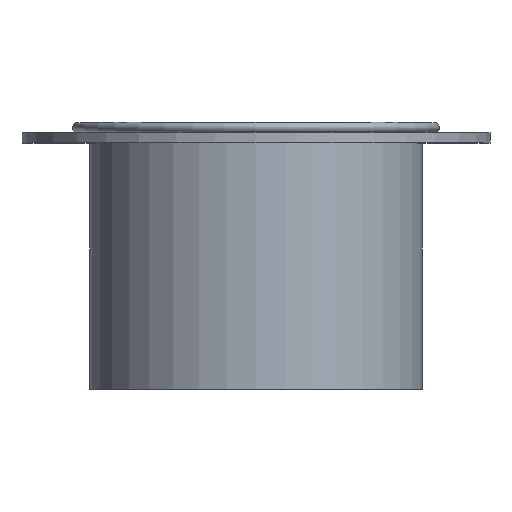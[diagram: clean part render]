
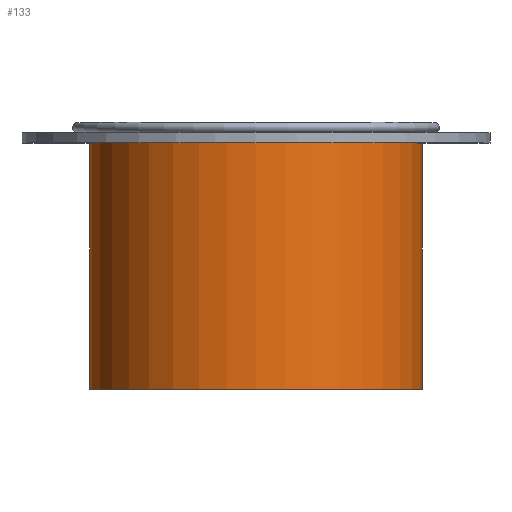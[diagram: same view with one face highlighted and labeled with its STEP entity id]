
A CAD part, top view. The second image highlights one B-rep face of the part: STEP entity #133.
In plain terms, the highlighted cylindrical face has radius 63.3 mm (diameter 126.6 mm), a full revolution.
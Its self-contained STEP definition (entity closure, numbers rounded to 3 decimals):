
#133=ADVANCED_FACE('',(#197,#198),#146,.T.);
#146=CYLINDRICAL_SURFACE('',#439,63.3);
#197=FACE_BOUND('',#251,.T.);
#198=FACE_BOUND('',#252,.T.);
#251=EDGE_LOOP('',(#305));
#252=EDGE_LOOP('',(#306));
#305=ORIENTED_EDGE('',*,*,#362,.F.);
#306=ORIENTED_EDGE('',*,*,#357,.T.);
#330=VERTEX_POINT('',#603);
#335=VERTEX_POINT('',#617);
#357=EDGE_CURVE('',#330,#330,#384,.T.);
#362=EDGE_CURVE('',#335,#335,#389,.T.);
#384=CIRCLE('',#428,63.3);
#389=CIRCLE('',#437,63.3);
#428=AXIS2_PLACEMENT_3D('',#602,#517,#518);
#437=AXIS2_PLACEMENT_3D('',#616,#535,#536);
#439=AXIS2_PLACEMENT_3D('',#619,#539,#540);
#517=DIRECTION('',(0.,1.,0.));
#518=DIRECTION('',(1.,0.,0.));
#535=DIRECTION('',(0.,1.,0.));
#536=DIRECTION('',(1.,0.,0.));
#539=DIRECTION('',(0.,1.,0.));
#540=DIRECTION('',(1.,0.,0.));
#602=CARTESIAN_POINT('',(0.,0.,0.));
#603=CARTESIAN_POINT('',(63.3,0.,0.));
#616=CARTESIAN_POINT('',(0.,99.2,0.));
#617=CARTESIAN_POINT('',(63.3,99.2,0.));
#619=CARTESIAN_POINT('',(0.,-192.076,0.));
